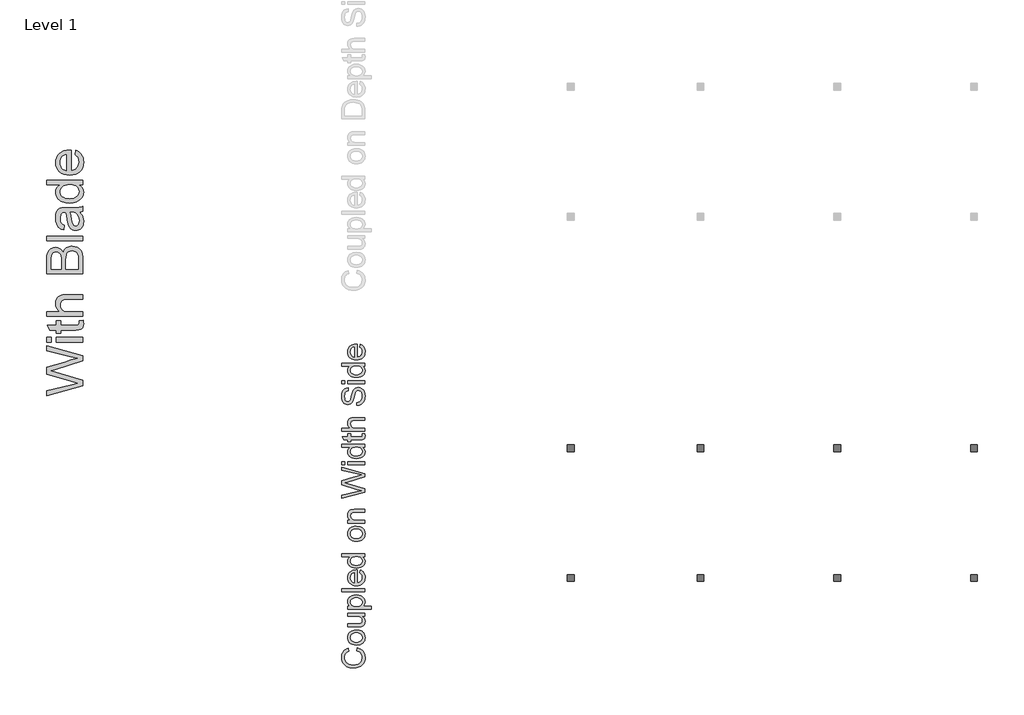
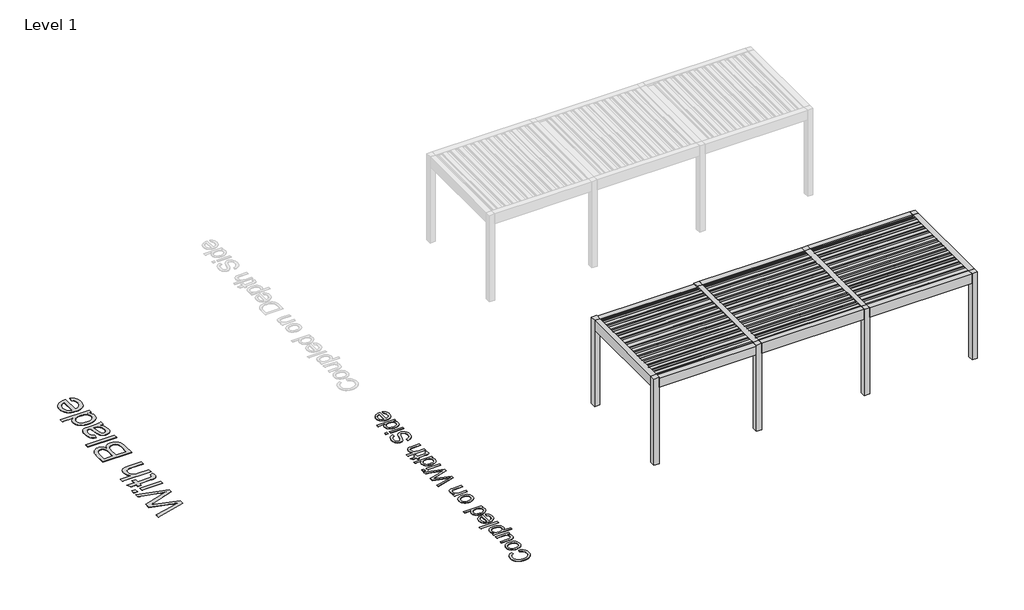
# One storey, part 41 of 80: 3 proxies.
"""IFC4 building model written with IfcOpenShell, lengths in millimetres."""

from ifc_helpers import new_model, si_unit, origin, origin_with_axes, place, context, project, spatial, polyline, outline, extrude, transform, mapped, element, save
from components import generic_models_ec7fa52f

model = new_model("IFC4")

# Units and contexts
model_context = context("Model", 3, world=origin())
ifc_project = project(units=[si_unit("LENGTHUNIT", "METRE", prefix="MILLI")], contexts=[model_context])

# Site, building, storey
site = spatial("IfcSite", under=ifc_project)
building = spatial("IfcBuilding", under=site)
storey = spatial("IfcBuildingStorey", under=building, Name="Level 1", Elevation=0.0)

# Proxies
placement = place(None, origin())
generic_models_shape = generic_models_ec7fa52f(model_context)
element("IfcBuildingElementProxy", 1, Name="Renson_Amani_Patio_Cover : Renson_Amani_Patio_Cover", ObjectType="Renson_Amani_Patio_Cover : Renson_Amani_Patio_Cover", at=placement, inside=storey, context=model_context, shape_type="MappedRepresentation", body=[
    mapped(generic_models_shape, transform((16953.165057, 47104.0136657, 0.0), x_axis=(1.0, 0.0, 0.0), y_axis=(0.0, 1.0, 0.0), z_axis=(0.0, 0.0, 1.0))),
])
element("IfcBuildingElementProxy", 2, Name="500mm Arial", ObjectType="500mm Arial", at=placement, inside=storey, context=model_context, shape_type="SweptSolid", body=[
    extrude(outline(polyline([(10834.4472638, 44082.6564057), (10850.6340716, 44145.4415995), (10889.6793805, 44133.017918), (10923.7966034, 44116.4708924), (10952.9857405, 44095.8005228), (10977.2467916, 44071.0068092), (10996.3191738, 44042.6492387), (11009.942304, 44011.2872986), (11018.116182, 43976.9209889), (11020.8408081, 43939.5503096), (11018.779136, 43901.2637573), (11012.59412, 43866.7250029), (11002.2857599, 43835.9340464), (10987.8540558, 43808.8908876), (10969.5136055, 43785.2238126), (10947.4790069, 43764.5611072), (10921.7502598, 43746.9027714), (10892.3273644, 43732.2488053), (10860.4825792, 43720.7409966), (10827.4881628, 43712.5211333), (10793.3441151, 43707.5892153), (10758.0504362, 43705.9452426), (10720.1815833, 43707.8038131), (10684.8112623, 43713.3795246), (10651.9394732, 43722.6723771), (10621.566216, 43735.6823706), (10594.1934963, 43752.1182651), (10570.3233197, 43771.6888208), (10549.9556863, 43794.3940377), (10533.0905961, 43820.2339158), (10519.8660048, 43848.3309032), (10510.4198682, 43877.807448), (10504.7521862, 43908.6635504), (10502.8629589, 43940.8992102), (10505.3078413, 43976.8098579), (10512.6424886, 44009.7391286), (10524.8669007, 44039.6870222), (10541.9810777, 44066.6535389), (10563.5328312, 44090.1941545), (10589.0699731, 44109.8643449), (10618.5925032, 44125.6641102), (10652.1004216, 44137.5934503), (10667.060956, 44074.8082565), (10642.3707092, 44064.9214278), (10621.2749761, 44053.0419051), (10603.7737566, 44039.1696882), (10589.8670507, 44023.3047771), (10579.2712828, 44005.3552014), (10571.7028772, 43985.2289906), (10567.1618338, 43962.9261447), (10565.6481527, 43938.4466636), (10567.3266143, 43910.2806983), (10572.3619991, 43884.5212945), (10580.7543071, 43861.168452), (10592.5035383, 43840.2221709), (10607.0808624, 43821.9468663), (10623.9574489, 43806.6069536), (10643.1332979, 43794.2024325), (10664.6084094, 43784.7333033), (10710.563002, 43772.7311532), (10757.9278088, 43768.7304365), (10815.9305368, 43773.4669172), (10866.0851154, 43787.6763592), (10887.7403358, 43798.4675644), (10906.4754928, 43811.8952572), (10922.2905865, 43827.9594377), (10935.1856169, 43846.6601058), (10952.3381149, 43888.3380702), (10958.0556142, 43933.2963156), (10956.1089053, 43960.5923933), (10950.2687787, 43985.7041715), (10940.5352342, 44008.6316505), (10926.908272, 44029.3748301), (10909.4492056, 44047.443201), (10888.2193488, 44062.3462539), (10863.2187015, 44074.0839888), (10834.4472638, 44082.6564057)])), origin_with_axes(), (0.0, 0.0, 1.0), 5.0),
    extrude(outline(polyline([(10828.5611519, 44208.2267934), (10780.790142, 44211.6220376), (10739.6256796, 44221.8077704), (10705.0677647, 44238.7839916), (10677.1163972, 44262.5507013), (10659.2511278, 44286.4783594), (10646.4902211, 44312.889221), (10638.8336771, 44341.783286), (10636.2814958, 44373.1605545), (10639.3893322, 44407.7989437), (10648.7128415, 44439.1187306), (10664.2520237, 44467.1199154), (10686.0068788, 44491.802498), (10713.2416427, 44511.9478693), (10745.2205516, 44526.3374203), (10781.9436053, 44534.9711509), (10823.410804, 44537.8490611), (10886.8397913, 44532.7600268), (10912.8751067, 44526.398734), (10935.1243032, 44517.492924), (10954.3423053, 44506.1537279), (10971.2840376, 44492.4922767), (10985.9495001, 44476.5085705), (10998.3386927, 44458.2026091), (11015.2152792, 44417.4750065), (11020.8408081, 44373.1605545), (11017.7444679, 44338.0163277), (11008.4554476, 44306.4053008), (10992.9737469, 44278.327474), (10971.299366, 44253.7828471), (10943.8001869, 44233.8520736), (10910.8440915, 44219.6158068), (10872.4310798, 44211.0740467), (10828.5611519, 44208.2267934)]), holes=[polyline([(10828.4385246, 44271.0119872), (10858.892256, 44272.8284046), (10885.2609644, 44278.2776566), (10907.5446499, 44287.3597434), (10925.7433123, 44300.0746648), (10939.8799444, 44315.541037), (10949.9775387, 44332.8774761), (10956.0360954, 44352.0839819), (10958.0556142, 44373.1605545), (10956.024599, 44394.1298283), (10949.9315535, 44413.259692), (10939.7764776, 44430.5501458), (10925.5593713, 44446.0011896), (10907.1806, 44458.716111), (10884.5405289, 44467.7981978), (10857.639158, 44473.2474499), (10826.4764873, 44475.0638672), (10796.9884461, 44473.2359535), (10771.3095164, 44467.7522126), (10749.4396982, 44458.6126442), (10731.3789915, 44445.8172486), (10717.2423594, 44430.3087232), (10707.1447651, 44413.0297658), (10701.0862085, 44393.9803762), (10699.0666896, 44373.1605545), (10701.0785443, 44352.0839819), (10707.1141083, 44332.8774761), (10717.1733816, 44315.541037), (10731.2563642, 44300.0746648), (10749.4013772, 44287.3597434), (10771.6467416, 44278.2776566), (10797.9924574, 44272.8284046), (10828.4385246, 44271.0119872)])]), origin_with_axes(), (0.0, 0.0, 1.0), 5.0),
    extrude(outline(polyline([(11012.9926588, 44843.926881), (10949.5943283, 44843.926881), (10980.7646632, 44821.2101678), (11003.0291881, 44794.753321), (11016.3879031, 44764.5563406), (11020.8408081, 44730.6192265), (11017.7138111, 44700.0390357), (11008.3328202, 44671.5741663), (10994.2306771, 44647.6924934), (10976.9402233, 44630.8618922), (10955.9402927, 44619.5341924), (10930.7097192, 44612.1612241), (10872.3391093, 44608.4824041), (10644.129645, 44608.4824041), (10644.129645, 44671.267598), (10842.7859224, 44671.267598), (10906.7973896, 44675.0690453), (10928.1498737, 44684.2201099), (10944.3826667, 44699.9010799), (10954.6373773, 44721.0696231), (10958.0556142, 44746.683407), (10954.5607353, 44773.7687189), (10944.0760984, 44799.1065913), (10927.5673939, 44819.9992229), (10906.0003119, 44833.7488125), (10876.4624534, 44841.3823639), (10836.0414192, 44843.926881), (10644.129645, 44843.926881), (10644.129645, 44906.7120749), (11012.9926588, 44906.7120749), (11012.9926588, 44843.926881)])), origin_with_axes(), (0.0, 0.0, 1.0), 5.0),
    extrude(outline(polyline([(11154.259345, 44993.0417164), (10644.129645, 44993.0417164), (10644.129645, 45055.8269103), (10705.6885655, 45055.8269103), (10675.3229725, 45076.3056747), (10653.6332632, 45099.2369857), (10640.6194376, 45125.969744), (10636.2814958, 45157.8528503), (10637.799009, 45179.7494932), (10642.3515487, 45200.3125639), (10649.9391148, 45219.5420623), (10660.5617075, 45237.4379885), (10673.943415, 45253.6094679), (10689.8083261, 45267.6656258), (10728.9877586, 45289.4319772), (10775.2489195, 45302.5837585), (10825.7407233, 45306.9676856), (10879.4361662, 45302.0166071), (10927.460095, 45287.1633716), (10948.735937, 45276.1422401), (10967.3752914, 45262.8831599), (10983.3781582, 45247.3861308), (10996.7445374, 45229.651153), (11014.8167404, 45190.9469014), (11020.8408081, 45150.2499557), (11016.8094345, 45121.3865475), (11004.7153139, 45095.6194794), (10986.4591699, 45073.5618881), (10963.9417261, 45055.8269103), (11154.259345, 45055.8269103), (11154.259345, 44993.0417164)]), holes=[polyline([(10831.5042079, 45055.8269103), (10861.762502, 45057.5245324), (10887.7901531, 45062.6173988), (10909.5871614, 45071.1055094), (10927.1535266, 45082.9888642), (10940.6731899, 45097.2941089), (10950.3300923, 45113.0478889), (10956.1242337, 45130.2502043), (10958.0556142, 45148.901055), (10956.0552559, 45167.8201531), (10950.0541808, 45185.336701), (10940.0523891, 45201.4506988), (10926.0498806, 45216.1621465), (10907.8473861, 45228.4210476), (10885.245636, 45237.1774055), (10858.2446304, 45242.4312202), (10826.8443693, 45244.1824918), (10796.8466583, 45242.4733734), (10770.8649923, 45237.346018), (10748.8993715, 45228.8004259), (10730.9497959, 45216.8365968), (10717.0009369, 45202.4968632), (10707.0374662, 45186.8235574), (10701.0593838, 45169.8166793), (10699.0666896, 45151.476229), (10701.1858432, 45133.1932603), (10707.5433039, 45115.9909449), (10718.1390718, 45099.8692829), (10732.9731468, 45084.8282742), (10751.8462596, 45072.1401775), (10774.5591407, 45063.0772512), (10801.1117901, 45057.6394955), (10831.5042079, 45055.8269103)])]), origin_with_axes(), (0.0, 0.0, 1.0), 5.0),
    extrude(outline(polyline([(11012.9926588, 45377.6010287), (10510.7111081, 45377.6010287), (10510.7111081, 45440.3862226), (11012.9926588, 45440.3862226), (11012.9926588, 45377.6010287)])), origin_with_axes(), (0.0, 0.0, 1.0), 5.0),
    extrude(outline(polyline([(10903.1185696, 45792.8171739), (10910.9667188, 45854.3760945), (10935.6224767, 45844.937622), (10957.3505071, 45832.1958758), (10976.1508099, 45816.1508559), (10992.0233851, 45796.8025622), (11004.6310077, 45774.3502642), (11013.6364523, 45748.9932313), (11019.0397191, 45720.7314634), (11020.8408081, 45689.5649606), (11017.7329716, 45650.6077902), (11008.4094623, 45615.8965911), (10992.8702801, 45585.4313634), (10971.115425, 45559.212107), (10943.7503696, 45538.1278701), (10911.3805861, 45523.067701), (10874.0060746, 45514.0315995), (10831.6268352, 45511.0195656), (10787.8105567, 45514.0622563), (10749.1906115, 45523.1903283), (10715.7669994, 45538.4037816), (10687.5397204, 45559.7026163), (10665.1142471, 45585.8528948), (10649.0960519, 45615.6206796), (10639.4851348, 45649.0059706), (10636.2814958, 45686.008768), (10639.4774706, 45721.819781), (10649.0653951, 45754.2048929), (10665.0452693, 45783.1641037), (10687.4170931, 45808.6974134), (10715.5830584, 45829.5402277), (10748.9453568, 45844.4279522), (10787.5039884, 45853.3605869), (10831.2589532, 45856.3381318), (10848.181525, 45855.9702498), (10848.181525, 45573.8047595), (10873.2358217, 45577.4414263), (10895.1784499, 45584.6726067), (10914.0094095, 45595.4983009), (10929.7287006, 45609.9185087), (10942.1217253, 45627.1361525), (10950.9738858, 45646.3541546), (10956.2851821, 45667.5725151), (10958.0556142, 45690.7912339), (10954.7753331, 45724.2071818), (10944.9344897, 45752.3501545), (10927.9199474, 45775.2201518), (10903.1185696, 45792.8171739)]), holes=[polyline([(10785.3963312, 45573.8047595), (10785.3963312, 45793.5529379), (10752.2256379, 45785.0609952), (10728.4972492, 45768.4143349), (10715.6213794, 45751.2924937), (10706.4243295, 45731.8100764), (10700.9060996, 45709.9670829), (10699.0666896, 45685.7635133), (10704.9374731, 45643.4417555), (10712.2759525, 45625.0284952), (10722.5498236, 45608.4469807), (10735.2839056, 45594.5326106), (10750.0030175, 45584.1207838), (10766.7071594, 45577.2115), (10785.3963312, 45573.8047595)])]), origin_with_axes(), (0.0, 0.0, 1.0), 5.0),
    extrude(outline(polyline([(11012.9926588, 46146.7196533), (10953.7636576, 46146.7196533), (10983.1099109, 46127.9346789), (11004.0715205, 46105.1796447), (11016.6484862, 46078.4545506), (11020.8408081, 46047.7593966), (11014.7707551, 46007.1697498), (10996.5605964, 45970.0136683), (10967.4825903, 45938.5597577), (10928.8089956, 45915.0766237), (10882.1033106, 45900.4533144), (10828.9290339, 45895.5788779), (10776.4138791, 45900.0701039), (10728.9877586, 45913.543782), (10707.8575365, 45923.6452085), (10689.3484736, 45935.9845837), (10673.4605699, 45950.5619078), (10660.1938255, 45967.3771806), (10642.2595782, 46005.3456682), (10636.2814958, 46047.5141419), (10640.558124, 46078.2322885), (10653.3880085, 46105.3942425), (10673.0543669, 46128.417524), (10697.8404163, 46146.7196533), (10510.7111081, 46146.7196533), (10510.7111081, 46209.5048471), (11012.9926588, 46209.5048471), (11012.9926588, 46146.7196533)]), holes=[polyline([(10828.6837793, 45958.3640718), (10859.1298465, 45960.1345039), (10885.4755623, 45965.4458002), (10907.7209267, 45974.2979607), (10925.8659396, 45986.6909854), (10939.9489223, 46001.4905715), (10950.0081956, 46017.5624162), (10956.0437596, 46034.9065194), (10958.0556142, 46053.5228812), (10956.1357301, 46072.2273814), (10950.3760776, 46089.4680178), (10940.7766568, 46105.2447904), (10927.3374676, 46119.5576993), (10909.9512112, 46131.4410542), (10888.5105887, 46139.9291648), (10863.0156, 46145.0220312), (10833.4662452, 46146.7196533), (10801.069637, 46144.9913743), (10773.2868821, 46139.8065375), (10750.1179807, 46131.1651427), (10731.5629325, 46119.06719), (10717.3458263, 46104.4400486), (10707.1907503, 46088.2110876), (10701.0977048, 46070.3803072), (10699.0666896, 46050.9477072), (10701.0172306, 46031.9634634), (10706.8688536, 46014.6193602), (10716.6215586, 45998.9153975), (10730.2753455, 45984.8515754), (10748.1291186, 45973.2632926), (10770.4817819, 45964.9859477), (10797.3333355, 45960.0195407), (10828.6837793, 45958.3640718)])]), origin_with_axes(), (0.0, 0.0, 1.0), 5.0),
    extrude(outline(polyline([(10828.5611519, 46484.1900702), (10780.790142, 46487.5853144), (10739.6256796, 46497.7710472), (10705.0677647, 46514.7472684), (10677.1163972, 46538.5139782), (10659.2511278, 46562.4416363), (10646.4902211, 46588.8524978), (10638.8336771, 46617.7465629), (10636.2814958, 46649.1238314), (10639.3893322, 46683.7622205), (10648.7128415, 46715.0820074), (10664.2520237, 46743.0831922), (10686.0068788, 46767.7657748), (10713.2416427, 46787.9111462), (10745.2205516, 46802.3006971), (10781.9436053, 46810.9344277), (10823.410804, 46813.8123379), (10886.8397913, 46808.7233036), (10912.8751067, 46802.3620108), (10935.1243032, 46793.4562008), (10954.3423053, 46782.1170047), (10971.2840376, 46768.4555536), (10985.9495001, 46752.4718473), (10998.3386927, 46734.1658859), (11015.2152792, 46693.4382834), (11020.8408081, 46649.1238314), (11017.7444679, 46613.9796045), (11008.4554476, 46582.3685777), (10992.9737469, 46554.2907508), (10971.299366, 46529.7461239), (10943.8001869, 46509.8153504), (10910.8440915, 46495.5790836), (10872.4310798, 46487.0373236), (10828.5611519, 46484.1900702)]), holes=[polyline([(10828.4385246, 46546.975264), (10858.892256, 46548.7916814), (10885.2609644, 46554.2409334), (10907.5446499, 46563.3230202), (10925.7433123, 46576.0379417), (10939.8799444, 46591.5043139), (10949.9775387, 46608.8407529), (10956.0360954, 46628.0472587), (10958.0556142, 46649.1238314), (10956.024599, 46670.0931051), (10949.9315535, 46689.2229688), (10939.7764776, 46706.5134226), (10925.5593713, 46721.9644664), (10907.1806, 46734.6793879), (10884.5405289, 46743.7614746), (10857.639158, 46749.2107267), (10826.4764873, 46751.027144), (10796.9884461, 46749.1992304), (10771.3095164, 46743.7154894), (10749.4396982, 46734.5759211), (10731.3789915, 46721.7805254), (10717.2423594, 46706.2720001), (10707.1447651, 46688.9930426), (10701.0862085, 46669.943653), (10699.0666896, 46649.1238314), (10701.0785443, 46628.0472587), (10707.1141083, 46608.8407529), (10717.1733816, 46591.5043139), (10731.2563642, 46576.0379417), (10749.4013772, 46563.3230202), (10771.6467416, 46554.2409334), (10797.9924574, 46548.7916814), (10828.4385246, 46546.975264)])]), origin_with_axes(), (0.0, 0.0, 1.0), 5.0),
    extrude(outline(polyline([(11012.9926588, 46884.445681), (10644.129645, 46884.445681), (10644.129645, 46947.2308748), (10695.6331243, 46947.2308748), (10669.6667868, 46969.0432114), (10651.1194029, 46995.2394752), (10639.9909726, 47025.819666), (10636.2814958, 47060.783784), (10639.270537, 47091.7318568), (10648.2376606, 47120.0740989), (10662.0638923, 47143.7105171), (10679.6302575, 47160.5411183), (10700.8907712, 47171.9607886), (10725.7994479, 47179.3644138), (10786.4999771, 47182.6753517), (11012.9926588, 47182.6753517), (11012.9926588, 47119.8901579), (10794.961263, 47119.8901579), (10762.495677, 47118.0814047), (10739.4110818, 47112.6551453), (10722.8717204, 47102.6456893), (10710.0418358, 47087.0873466), (10701.8104762, 47067.1450768), (10699.0666896, 47043.9838395), (10700.6071955, 47024.9191215), (10705.228713, 47007.2109684), (10712.9312423, 46990.8593802), (10723.7147833, 46975.8643568), (10738.8056093, 46963.3372084), (10759.4299937, 46954.3892453), (10785.5879364, 46949.0204674), (10817.2794374, 46947.2308748), (11012.9926588, 46947.2308748), (11012.9926588, 46884.445681)])), origin_with_axes(), (0.0, 0.0, 1.0), 5.0),
    extrude(outline(polyline([(11012.9926588, 47562.9427074), (10510.7111081, 47425.9679779), (10510.7111081, 47490.715209), (10840.8238851, 47570.17772), (10942.7271978, 47594.7031863), (10852.5961089, 47620.9454353), (10510.7111081, 47720.5188287), (10510.7111081, 47813.8382281), (10758.5409455, 47886.1883538), (10850.5114443, 47917.1824119), (10942.7271978, 47940.0217524), (10843.7669411, 47963.8114548), (10510.7111081, 48044.0097297), (10510.7111081, 48108.7569609), (11012.9926588, 47971.659604), (11012.9926588, 47904.5824536), (10625.4902906, 47784.1624138), (10571.4116373, 47767.3624694), (10636.5267504, 47748.4778603), (11012.9926588, 47638.7263984), (11012.9926588, 47562.9427074)])), origin_with_axes(), (0.0, 0.0, 1.0), 5.0),
    extrude(outline(polyline([(11012.9926588, 48163.6940055), (10644.129645, 48163.6940055), (10644.129645, 48226.4791994), (11012.9926588, 48226.4791994), (11012.9926588, 48163.6940055)])), origin_with_axes(), (0.0, 0.0, 1.0), 5.0),
    extrude(outline(polyline([(10573.4963019, 48163.6940055), (10510.7111081, 48163.6940055), (10510.7111081, 48226.4791994), (10573.4963019, 48226.4791994), (10573.4963019, 48163.6940055)])), origin_with_axes(), (0.0, 0.0, 1.0), 5.0),
    extrude(outline(polyline([(11012.9926588, 48548.2533178), (10953.7636576, 48548.2533178), (10983.1099109, 48529.4683434), (11004.0715205, 48506.7133092), (11016.6484862, 48479.9882151), (11020.8408081, 48449.2930611), (11014.7707551, 48408.7034143), (10996.5605964, 48371.5473328), (10967.4825903, 48340.0934222), (10928.8089956, 48316.6102882), (10882.1033106, 48301.9869789), (10828.9290339, 48297.1125424), (10776.4138791, 48301.6037685), (10728.9877586, 48315.0774465), (10707.8575365, 48325.178873), (10689.3484736, 48337.5182482), (10673.4605699, 48352.0955723), (10660.1938255, 48368.9108452), (10642.2595782, 48406.8793327), (10636.2814958, 48449.0478064), (10640.558124, 48479.765953), (10653.3880085, 48506.927907), (10673.0543669, 48529.9511885), (10697.8404163, 48548.2533178), (10510.7111081, 48548.2533178), (10510.7111081, 48611.0385116), (11012.9926588, 48611.0385116), (11012.9926588, 48548.2533178)]), holes=[polyline([(10828.6837793, 48359.8977363), (10859.1298465, 48361.6681684), (10885.4755623, 48366.9794647), (10907.7209267, 48375.8316252), (10925.8659396, 48388.2246499), (10939.9489223, 48403.024236), (10950.0081956, 48419.0960807), (10956.0437596, 48436.4401839), (10958.0556142, 48455.0565457), (10956.1357301, 48473.7610459), (10950.3760776, 48491.0016823), (10940.7766568, 48506.778455), (10927.3374676, 48521.0913638), (10909.9512112, 48532.9747187), (10888.5105887, 48541.4628293), (10863.0156, 48546.5556957), (10833.4662452, 48548.2533178), (10801.069637, 48546.5250388), (10773.2868821, 48541.340202), (10750.1179807, 48532.6988072), (10731.5629325, 48520.6008545), (10717.3458263, 48505.9737131), (10707.1907503, 48489.7447522), (10701.0977048, 48471.9139717), (10699.0666896, 48452.4813717), (10701.0172306, 48433.4971279), (10706.8688536, 48416.1530247), (10716.6215586, 48400.449062), (10730.2753455, 48386.3852399), (10748.1291186, 48374.7969571), (10770.4817819, 48366.5196122), (10797.3333355, 48361.5532053), (10828.6837793, 48359.8977363)])]), origin_with_axes(), (0.0, 0.0, 1.0), 5.0),
    extrude(outline(polyline([(10960.6307882, 48838.6348393), (11014.8320688, 48846.4829886), (11020.8408081, 48799.5167205), (11018.2349773, 48769.3810537), (11010.4174849, 48746.9095952), (10998.3693495, 48731.0293557), (10983.0715899, 48720.6673462), (10956.7986841, 48714.9651753), (10911.8251102, 48713.0644516), (10706.9148388, 48713.0644516), (10706.9148388, 48665.9755563), (10644.129645, 48665.9755563), (10644.129645, 48713.0644516), (10554.4890655, 48713.0644516), (10517.5782387, 48775.8496455), (10644.129645, 48775.8496455), (10644.129645, 48838.6348393), (10706.9148388, 48838.6348393), (10706.9148388, 48775.8496455), (10909.9857002, 48775.8496455), (10942.3593158, 48779.1605834), (10953.8249713, 48789.890475), (10958.0556142, 48811.2889444), (10960.6307882, 48838.6348393)])), origin_with_axes(), (0.0, 0.0, 1.0), 5.0),
    extrude(outline(polyline([(11012.9926588, 48901.4200332), (10510.7111081, 48901.4200332), (10510.7111081, 48964.205227), (10695.3878697, 48964.205227), (10669.5288311, 48987.2668296), (10651.0580892, 49013.1641892), (10639.9756441, 49041.8973059), (10636.2814958, 49073.4661796), (10640.3128693, 49111.3886819), (10652.4069899, 49143.9768953), (10671.6134957, 49169.6366645), (10696.982025, 49186.7738341), (10731.838844, 49196.4307365), (10779.5102192, 49199.6497039), (11012.9926588, 49199.6497039), (11012.9926588, 49136.8645101), (10786.0094678, 49136.8645101), (10746.707408, 49131.8674463), (10731.7008883, 49125.6211166), (10719.7907087, 49116.876255), (10710.7239503, 49105.8397952), (10704.2476944, 49092.7186707), (10699.0666896, 49060.2224278), (10702.5615686, 49033.6889389), (10713.0462054, 49008.7802621), (10729.5089247, 48988.1482135), (10750.9380509, 48974.4446092), (10779.4182487, 48966.7650726), (10817.0341827, 48964.205227), (11012.9926588, 48964.205227), (11012.9926588, 48901.4200332)])), origin_with_axes(), (0.0, 0.0, 1.0), 5.0),
    extrude(outline(polyline([(10840.3333758, 49466.4867778), (10840.3333758, 49529.2719716), (10875.1748664, 49536.4763273), (10903.1798833, 49549.5054813), (10925.4060871, 49569.8309616), (10942.9111388, 49598.924296), (10954.2694954, 49634.4862222), (10958.0556142, 49674.2174777), (10955.1892003, 49709.1969241), (10946.5899587, 49739.8231002), (10932.9783249, 49764.6398064), (10915.0747345, 49782.1908433), (10894.519328, 49792.6294949), (10872.952246, 49796.1090454), (10851.936987, 49793.5032146), (10833.7728135, 49785.6857222), (10818.2757845, 49769.8054828), (10805.2619589, 49743.0114108), (10781.2883155, 49651.592735), (10765.4234045, 49591.5819845), (10750.3249143, 49553.1843013), (10729.2023564, 49521.9296601), (10703.6039009, 49499.7800983), (10674.0813708, 49486.5823318), (10641.186589, 49482.1830762), (10604.4137179, 49487.6246641), (10570.1240503, 49503.9494276), (10554.5963644, 49516.0857013), (10541.0613727, 49530.7281712), (10519.9694716, 49567.5316991), (10507.139587, 49611.7081954), (10502.8629589, 49660.6058439), (10507.3388565, 49713.5808512), (10520.7665493, 49759.9339826), (10542.8701258, 49798.0097691), (10557.0719037, 49813.3228571), (10573.3736746, 49826.1527417), (10610.3764719, 49843.9643617), (10651.9777942, 49851.0460901), (10651.9777942, 49788.2608962), (10631.9435539, 49784.0609101), (10614.5151444, 49776.733927), (10599.6925657, 49766.279947), (10587.4758177, 49752.69897), (10577.9262143, 49735.7380772), (10571.105069, 49715.1443497), (10565.6481527, 49663.0583905), (10571.0437553, 49609.7461581), (10577.7882585, 49589.3670284), (10587.2305631, 49573.1725564), (10598.5812555, 49560.8331811), (10611.0509223, 49552.0193416), (10624.6395635, 49546.731038), (10639.3471791, 49544.9682701), (10663.4741066, 49549.9653338), (10682.8798818, 49564.9565251), (10691.5097803, 49578.7214431), (10700.2316493, 49600.395824), (10717.9512987, 49667.4729745), (10734.7819, 49736.6961032), (10749.466523, 49778.573337), (10772.2445498, 49814.3651895), (10800.3568656, 49839.3351799), (10833.496902, 49854.0044744), (10871.3580907, 49858.8942393), (10910.0623423, 49853.2687104), (10946.4673314, 49836.3921239), (10977.7986146, 49808.9542584), (11001.2817487, 49771.6448928), (11015.9510432, 49726.7786178), (11020.8408081, 49676.6700243), (11015.5678328, 49615.1570891), (11008.9766137, 49588.4818123), (10999.748907, 49564.5273295), (10987.8693842, 49543.1480206), (10973.322717, 49524.1982658), (10956.1089053, 49507.6780649), (10936.2279492, 49493.5874181), (10914.323642, 49482.2367257), (10891.0397774, 49473.9363882), (10866.3763553, 49468.6864055), (10840.3333758, 49466.4867778)])), origin_with_axes(), (0.0, 0.0, 1.0), 5.0),
    extrude(outline(polyline([(11012.9926588, 49945.2238808), (10644.129645, 49945.2238808), (10644.129645, 50008.0090747), (11012.9926588, 50008.0090747), (11012.9926588, 49945.2238808)])), origin_with_axes(), (0.0, 0.0, 1.0), 5.0),
    extrude(outline(polyline([(10573.4963019, 49945.2238808), (10510.7111081, 49945.2238808), (10510.7111081, 50008.0090747), (10573.4963019, 50008.0090747), (10573.4963019, 49945.2238808)])), origin_with_axes(), (0.0, 0.0, 1.0), 5.0),
    extrude(outline(polyline([(11012.9926588, 50329.7831931), (10953.7636576, 50329.7831931), (10983.1099109, 50310.9982187), (11004.0715205, 50288.2431845), (11016.6484862, 50261.5180904), (11020.8408081, 50230.8229364), (11014.7707551, 50190.2332896), (10996.5605964, 50153.0772081), (10967.4825903, 50121.6232975), (10928.8089956, 50098.1401635), (10882.1033106, 50083.5168542), (10828.9290339, 50078.6424177), (10776.4138791, 50083.1336438), (10728.9877586, 50096.6073218), (10707.8575365, 50106.7087483), (10689.3484736, 50119.0481235), (10673.4605699, 50133.6254476), (10660.1938255, 50150.4407205), (10642.2595782, 50188.4092081), (10636.2814958, 50230.5776817), (10640.558124, 50261.2958283), (10653.3880085, 50288.4577823), (10673.0543669, 50311.4810639), (10697.8404163, 50329.7831931), (10510.7111081, 50329.7831931), (10510.7111081, 50392.568387), (11012.9926588, 50392.568387), (11012.9926588, 50329.7831931)]), holes=[polyline([(10828.6837793, 50141.4276116), (10859.1298465, 50143.1980437), (10885.4755623, 50148.50934), (10907.7209267, 50157.3615005), (10925.8659396, 50169.7545252), (10939.9489223, 50184.5541113), (10950.0081956, 50200.625956), (10956.0437596, 50217.9700592), (10958.0556142, 50236.586421), (10956.1357301, 50255.2909212), (10950.3760776, 50272.5315576), (10940.7766568, 50288.3083303), (10927.3374676, 50302.6212391), (10909.9512112, 50314.504594), (10888.5105887, 50322.9927046), (10863.0156, 50328.085571), (10833.4662452, 50329.7831931), (10801.069637, 50328.0549142), (10773.2868821, 50322.8700773), (10750.1179807, 50314.2286825), (10731.5629325, 50302.1307298), (10717.3458263, 50287.5035884), (10707.1907503, 50271.2746275), (10701.0977048, 50253.443847), (10699.0666896, 50234.011247), (10701.0172306, 50215.0270032), (10706.8688536, 50197.6829), (10716.6215586, 50181.9789373), (10730.2753455, 50167.9151152), (10748.1291186, 50156.3268324), (10770.4817819, 50148.0494875), (10797.3333355, 50143.0830806), (10828.6837793, 50141.4276116)])]), origin_with_axes(), (0.0, 0.0, 1.0), 5.0),
    extrude(outline(polyline([(10903.1185696, 50744.9993383), (10910.9667188, 50806.5582589), (10935.6224767, 50797.1197864), (10957.3505071, 50784.3780402), (10976.1508099, 50768.3330203), (10992.0233851, 50748.9847266), (11004.6310077, 50726.5324286), (11013.6364523, 50701.1753957), (11019.0397191, 50672.9136278), (11020.8408081, 50641.747125), (11017.7329716, 50602.7899546), (11008.4094623, 50568.0787555), (10992.8702801, 50537.6135278), (10971.115425, 50511.3942714), (10943.7503696, 50490.3100346), (10911.3805861, 50475.2498654), (10874.0060746, 50466.2137639), (10831.6268352, 50463.20173), (10787.8105567, 50466.2444207), (10749.1906115, 50475.3724927), (10715.7669994, 50490.585946), (10687.5397204, 50511.8847807), (10665.1142471, 50538.0350592), (10649.0960519, 50567.802844), (10639.4851348, 50601.1881351), (10636.2814958, 50638.1909324), (10639.4774706, 50674.0019454), (10649.0653951, 50706.3870573), (10665.0452693, 50735.3462681), (10687.4170931, 50760.8795778), (10715.5830584, 50781.7223921), (10748.9453568, 50796.6101166), (10787.5039884, 50805.5427513), (10831.2589532, 50808.5202962), (10848.181525, 50808.1524142), (10848.181525, 50525.9869239), (10873.2358217, 50529.6235907), (10895.1784499, 50536.8547711), (10914.0094095, 50547.6804653), (10929.7287006, 50562.1006731), (10942.1217253, 50579.3183169), (10950.9738858, 50598.536319), (10956.2851821, 50619.7546795), (10958.0556142, 50642.9733983), (10954.7753331, 50676.3893462), (10944.9344897, 50704.5323189), (10927.9199474, 50727.4023162), (10903.1185696, 50744.9993383)]), holes=[polyline([(10785.3963312, 50525.9869239), (10785.3963312, 50745.7351023), (10752.2256379, 50737.2431596), (10728.4972492, 50720.5964993), (10715.6213794, 50703.4746581), (10706.4243295, 50683.9922408), (10700.9060996, 50662.1492473), (10699.0666896, 50637.9456777), (10704.9374731, 50595.6239199), (10712.2759525, 50577.2106596), (10722.5498236, 50560.6291451), (10735.2839056, 50546.714775), (10750.0030175, 50536.3029482), (10766.7071594, 50529.3936644), (10785.3963312, 50525.9869239)])]), origin_with_axes(), (0.0, 0.0, 1.0), 5.0),
])
element("IfcBuildingElementProxy", 3, Name="800mm Arial", ObjectType="800mm Arial", at=placement, inside=storey, context=model_context, shape_type="SweptSolid", body=[
    extrude(outline(polyline([(4831.971127, 49900.4211976), (4032.5824286, 49682.4238402), (4032.5824286, 49785.4700396), (4557.9619149, 49911.9358298), (4720.142581, 49950.9684811), (4576.6975875, 49992.7334179), (4032.5824286, 50151.2059822), (4032.5824286, 50299.7252203), (4427.0073699, 50414.8715416), (4573.3798122, 50464.1990547), (4720.142581, 50500.5482112), (4562.6458331, 50538.4098829), (4032.5824286, 50666.0466526), (4032.5824286, 50769.092852), (4831.971127, 50550.9003313), (4831.971127, 50444.1460301), (4215.2552366, 50252.4957122), (4129.1882405, 50225.7583461), (4232.8199297, 50195.7032046), (4831.971127, 50021.0320901), (4831.971127, 49900.4211976)])), origin_with_axes(), (0.0, 0.0, 1.0), 5.0),
    extrude(outline(polyline([(4831.971127, 50856.5259909), (4244.9200516, 50856.5259909), (4244.9200516, 50956.4495782), (4831.971127, 50956.4495782), (4831.971127, 50856.5259909)])), origin_with_axes(), (0.0, 0.0, 1.0), 5.0),
    extrude(outline(polyline([(4132.5060159, 50856.5259909), (4032.5824286, 50856.5259909), (4032.5824286, 50956.4495782), (4132.5060159, 50956.4495782), (4132.5060159, 50856.5259909)])), origin_with_axes(), (0.0, 0.0, 1.0), 5.0),
    extrude(outline(polyline([(4748.6364165, 51318.6725821), (4834.8985758, 51331.1630305), (4842.0708255, 51291.5936803), (4844.4615754, 51256.4155033), (4840.3143562, 51208.4541331), (4827.8726986, 51172.6904663), (4808.6979086, 51147.4168246), (4784.3512924, 51130.9255294), (4742.5375647, 51121.850438), (4670.9614404, 51118.8254075), (4344.8436389, 51118.8254075), (4344.8436389, 51043.8827171), (4244.9200516, 51043.8827171), (4244.9200516, 51118.8254075), (4102.2557112, 51118.8254075), (4043.511571, 51218.7489948), (4244.9200516, 51218.7489948), (4244.9200516, 51318.6725821), (4344.8436389, 51318.6725821), (4344.8436389, 51218.7489948), (4668.0339916, 51218.7489948), (4700.9190003, 51220.0663468), (4719.5570913, 51224.0184028), (4729.8763484, 51230.922303), (4737.8048557, 51241.0951877), (4742.854705, 51255.5128733), (4744.5379881, 51275.1511759), (4748.6364165, 51318.6725821)])), origin_with_axes(), (0.0, 0.0, 1.0), 5.0),
    extrude(outline(polyline([(4831.971127, 51418.5961694), (4032.5824286, 51418.5961694), (4032.5824286, 51518.5197567), (4326.4982928, 51518.5197567), (4285.3432411, 51555.2226466), (4255.9467756, 51596.4386868), (4238.3088963, 51642.1678774), (4232.4296032, 51692.4102182), (4234.0336012, 51723.6485369), (4238.8455953, 51752.7644552), (4246.8655853, 51779.7579731), (4258.0935714, 51804.6290906), (4272.1514247, 51826.7435271), (4288.6610165, 51845.467002), (4307.6223466, 51860.7995154), (4329.0354151, 51872.7410671), (4354.2236729, 51881.7063792), (4384.5105708, 51888.1101736), (4460.3802867, 51893.2332091), (4831.971127, 51893.2332091), (4831.971127, 51793.3096218), (4470.7239393, 51793.3096218), (4436.9850913, 51791.3213961), (4408.1741156, 51785.3567191), (4384.2910121, 51775.4155907), (4365.3357808, 51761.498011), (4350.9058976, 51743.9333179), (4340.5988381, 51723.0508495), (4334.4146024, 51698.8506057), (4332.3531905, 51671.3325865), (4337.9153433, 51629.1041369), (4354.6018017, 51589.4616004), (4366.7141213, 51571.665151), (4380.8024689, 51556.6253825), (4396.8668444, 51544.3422951), (4414.907248, 51534.8158886), (4460.2339143, 51522.5937897), (4520.1002432, 51518.5197567), (4831.971127, 51518.5197567), (4831.971127, 51418.5961694)])), origin_with_axes(), (0.0, 0.0, 1.0), 5.0),
    extrude(outline(polyline([(4831.971127, 52355.3798003), (4032.5824286, 52355.3798003), (4032.5824286, 52660.4199701), (4034.0522519, 52704.6671396), (4038.4617217, 52744.3157749), (4045.8108381, 52779.365876), (4056.099601, 52809.8174429), (4069.4377898, 52836.4450297), (4085.9351838, 52860.0231906), (4105.5917831, 52880.5519256), (4128.4075875, 52898.0312348), (4153.0957395, 52911.9915065), (4178.3693812, 52921.9631291), (4204.2285126, 52927.9461027), (4230.6731339, 52929.9404272), (4255.0990352, 52928.263243), (4278.805272, 52923.2316903), (4301.7918443, 52914.8457691), (4324.0587521, 52903.1054795), (4344.9107263, 52887.9742282), (4363.6524977, 52869.4154223), (4380.2840665, 52847.4290617), (4394.8054326, 52822.0151464), (4407.6618121, 52852.1739684), (4424.3726659, 52878.6368862), (4444.937994, 52901.4038998), (4469.3577965, 52920.4750093), (4496.8880134, 52935.545272), (4526.7845847, 52946.3097454), (4559.0475105, 52952.7684294), (4593.6767909, 52954.921324), (4649.420296, 52949.0420309), (4701.1141635, 52931.4041516), (4745.074687, 52905.0815074), (4777.61816, 52873.1479196), (4801.1841233, 52834.0420821), (4818.2121174, 52786.2026889), (4828.5313746, 52728.0684339), (4831.971127, 52658.078011), (4831.971127, 52355.3798003)]), holes=[polyline([(4732.0475397, 52455.3033876), (4732.0475397, 52660.2248068), (4728.1442745, 52734.3868443), (4719.483905, 52768.8087636), (4706.3835714, 52797.1318312), (4687.6235034, 52820.1610955), (4661.9839306, 52838.7016048), (4630.6114371, 52850.9237038), (4594.6526071, 52854.9977368), (4552.8876703, 52850.216237), (4516.9776311, 52835.8717376), (4501.7122051, 52824.8267171), (4488.8985176, 52810.8176546), (4478.5365684, 52793.8445501), (4470.6263577, 52773.9074037), (4460.5998454, 52721.6280464), (4457.2576746, 52650.466644), (4457.2576746, 52455.3033876), (4732.0475397, 52455.3033876)]), polyline([(4357.3340873, 52455.3033876), (4357.3340873, 52637.7810323), (4355.1872915, 52701.5994172), (4348.746904, 52744.3401704), (4333.938892, 52781.6407477), (4311.7634669, 52808.4513001), (4282.5621647, 52824.625455), (4246.6765209, 52830.0168399), (4211.8398796, 52824.9913861), (4181.4919933, 52809.9150245), (4157.804053, 52785.4708266), (4142.9472501, 52752.3418639), (4135.1163245, 52701.5018356), (4132.5060159, 52623.9244411), (4132.5060159, 52455.3033876), (4357.3340873, 52455.3033876)])]), origin_with_axes(), (0.0, 0.0, 1.0), 5.0),
    extrude(outline(polyline([(4831.971127, 53079.8258082), (4032.5824286, 53079.8258082), (4032.5824286, 53179.7493955), (4831.971127, 53179.7493955), (4831.971127, 53079.8258082)])), origin_with_axes(), (0.0, 0.0, 1.0), 5.0),
    extrude(outline(polyline([(4757.0284365, 53704.3482287), (4797.9639295, 53656.6064171), (4813.125675, 53632.2049112), (4824.7500865, 53607.4496719), (4839.5337031, 53555.7558044), (4844.4615754, 53500.4026258), (4841.4975334, 53455.9115022), (4832.6054075, 53416.8971474), (4817.7851978, 53383.3595616), (4797.0369041, 53355.2987446), (4771.6778784, 53333.1416162), (4743.0254728, 53317.3150958), (4711.0796873, 53307.8191836), (4675.8405218, 53304.6538796), (4634.4171206, 53309.4353794), (4596.799403, 53323.7798787), (4564.5974656, 53345.9065129), (4539.4214056, 53374.0344172), (4520.3929881, 53407.0901938), (4506.6339785, 53444.0004447), (4491.6064077, 53530.4577673), (4475.798184, 53632.625732), (4457.2576746, 53703.762739), (4435.0090634, 53704.3482287), (4410.7844242, 53702.6283525), (4390.4142593, 53697.468724), (4373.8985687, 53688.869343), (4361.2373524, 53676.8302096), (4348.6005316, 53656.0209274), (4339.574231, 53630.6740994), (4334.1584506, 53600.7897258), (4332.3531905, 53566.3678064), (4337.1590857, 53506.8430132), (4343.1664547, 53483.813749), (4351.5767713, 53465.2732396), (4363.0487114, 53450.0383079), (4378.2409512, 53436.9257766), (4397.1534905, 53425.9356457), (4419.7863294, 53417.0679153), (4407.295881, 53317.144328), (4352.6501692, 53334.4894624), (4329.7184865, 53346.3639268), (4309.7142527, 53360.3729893), (4292.2349436, 53377.1204362), (4276.8780349, 53397.2100539), (4263.6435265, 53420.6418424), (4252.5314186, 53447.4158016), (4237.4550571, 53508.8190412), (4232.4296032, 53579.2485814), (4236.8695673, 53646.7994635), (4250.1894595, 53700.347382), (4270.2180887, 53740.7217807), (4294.7842636, 53768.7521034), (4325.1565454, 53787.3414035), (4362.6034952, 53799.3927346), (4397.1473916, 53803.0520457), (4450.0366341, 53804.271816), (4574.3556285, 53804.271816), (4682.6468404, 53805.5403772), (4747.9533451, 53809.3460607), (4790.8648661, 53816.8598461), (4831.971127, 53829.2527129), (4831.971127, 53729.3291256), (4797.2320673, 53713.3257385), (4757.0284365, 53704.3482287)]), holes=[polyline([(4557.1812619, 53704.3482287), (4573.8189295, 53637.2120685), (4587.8218932, 53543.1433789), (4595.482051, 53491.3031389), (4604.0204434, 53457.1739645), (4615.0959582, 53434.8033762), (4630.3674831, 53418.2388948), (4648.6640384, 53407.9928238), (4668.8146446, 53404.5774669), (4684.3423212, 53406.4376167), (4698.5282504, 53412.018066), (4711.3724322, 53421.318815), (4722.8748666, 53434.3398635), (4732.3524823, 53450.9592345), (4739.1222077, 53471.0549511), (4744.5379881, 53521.6754207), (4738.5611133, 53575.3453162), (4731.0900199, 53599.8383049), (4720.6304892, 53622.7699876), (4694.2102633, 53661.2171491), (4662.7645836, 53687.9545152), (4630.3674831, 53699.810683), (4585.4799341, 53703.762739), (4557.1812619, 53704.3482287)])]), origin_with_axes(), (0.0, 0.0, 1.0), 5.0),
    extrude(outline(polyline([(4831.971127, 54303.8897525), (4737.7072741, 54303.8897525), (4784.4122809, 54273.9931812), (4802.7606764, 54256.6754916), (4817.7730001, 54237.7781994), (4829.4492518, 54217.3013046), (4837.7894315, 54195.2448072), (4842.7935394, 54171.6087072), (4844.4615754, 54146.3930046), (4842.0464301, 54113.4104142), (4834.8009942, 54081.7939667), (4822.7252677, 54051.5436619), (4805.8192506, 54022.6595), (4784.5891476, 53996.0441109), (4759.5411634, 53972.6001247), (4730.675298, 53952.3275414), (4697.9915514, 53935.2263611), (4662.1120065, 53921.6503171), (4623.6587461, 53911.9531428), (4582.6317703, 53906.1348382), (4539.0310791, 53904.1954033), (4496.2293374, 53905.9823669), (4455.4524145, 53911.3432576), (4416.7003104, 53920.2780754), (4379.9730251, 53932.7868204), (4346.3439564, 53948.8633936), (4316.8865024, 53968.5016963), (4291.600663, 53991.7017284), (4270.4864382, 54018.46349), (4253.8365729, 54047.8416589), (4241.943812, 54078.8909132), (4234.8081554, 54111.6112529), (4232.4296032, 54146.002678), (4234.1311828, 54171.1543427), (4239.2359218, 54194.8910738), (4247.74382, 54217.2128712), (4259.6548775, 54238.1197351), (4290.9541847, 54274.7616365), (4330.4015579, 54303.8897525), (4032.5824286, 54303.8897525), (4032.5824286, 54403.8133398), (4831.971127, 54403.8133398), (4831.971127, 54303.8897525)]), holes=[polyline([(4538.6407525, 54004.1189906), (4587.0961298, 54006.9366601), (4629.0257357, 54015.3896687), (4664.4295702, 54029.4780163), (4693.3076333, 54049.2017029), (4715.7209135, 54072.7554684), (4731.7303994, 54098.3340527), (4741.3360909, 54125.9374557), (4744.5379881, 54155.5656776), (4741.4824633, 54185.3341731), (4732.3158891, 54212.7729072), (4717.0382655, 54237.8818799), (4695.6495923, 54260.6610912), (4667.9791019, 54279.5736305), (4633.8560263, 54293.0825872), (4593.2803655, 54301.1879612), (4546.2521195, 54303.8897525), (4494.6924267, 54301.1391704), (4450.4757514, 54292.8874239), (4413.6020937, 54279.1345132), (4384.0714534, 54259.8804382), (4361.4447134, 54236.601121), (4345.2827562, 54210.7724838), (4335.5855819, 54182.3945265), (4332.3531905, 54151.4672492), (4335.457506, 54121.2535376), (4344.7704527, 54093.6501345), (4360.2920304, 54068.65704), (4382.0222393, 54046.274254), (4410.4367896, 54027.8313263), (4446.011392, 54014.6578065), (4488.7460463, 54006.7536946), (4538.6407525, 54004.1189906)])]), origin_with_axes(), (0.0, 0.0, 1.0), 5.0),
    extrude(outline(polyline([(4657.1048492, 54964.7125388), (4669.5952976, 55062.6844935), (4708.8353099, 55047.6630216), (4743.4157994, 55027.3843395), (4773.3367661, 55001.8484472), (4798.5982101, 54971.0553446), (4818.6634324, 54935.3221721), (4832.9957341, 54894.96607), (4841.595115, 54849.9870383), (4844.4615754, 54800.3850769), (4839.5154066, 54738.3841498), (4824.6769002, 54683.1407506), (4799.9460563, 54634.654879), (4765.3228749, 54592.9265353), (4721.7709744, 54559.3706529), (4670.2539736, 54535.4021654), (4610.7718723, 54521.021073), (4543.3246707, 54516.2273755), (4473.5903996, 54521.0698638), (4412.1261716, 54535.5973287), (4358.9319865, 54559.8097702), (4335.4361601, 54575.5478572), (4314.0078444, 54593.7071883), (4278.3173639, 54635.3257527), (4252.8241635, 54682.7016332), (4237.5282433, 54735.8348298), (4232.4296032, 54794.7253424), (4237.5160456, 54851.7191122), (4252.7753727, 54903.2605084), (4278.2075845, 54949.3495312), (4313.8126811, 54989.9861805), (4358.6392416, 55023.1578352), (4411.735845, 55046.8518743), (4473.1024915, 55061.0682978), (4542.7391809, 55065.8071056), (4569.6717103, 55065.2216158), (4569.6717103, 54616.1509628), (4609.5460031, 54621.9387731), (4644.4680283, 54633.4473064), (4674.4377859, 54650.6765626), (4699.4552758, 54673.6265418), (4719.1789624, 54701.0286828), (4733.26731, 54731.6144244), (4741.7203186, 54765.3837666), (4744.5379881, 54802.3367094), (4739.317371, 54855.5186968), (4723.6555196, 54900.3086642), (4711.6651771, 54919.5566403), (4696.5766178, 54936.7066115), (4678.3898419, 54951.7585776), (4657.1048492, 54964.7125388)]), holes=[polyline([(4469.748123, 54616.1509628), (4469.748123, 54965.8835183), (4441.4738462, 54960.7482851), (4416.9564622, 54952.3684628), (4396.1959708, 54940.7440513), (4379.192372, 54925.8750507), (4358.7002301, 54898.6253811), (4344.0629859, 54867.6188187), (4335.2806393, 54832.8553636), (4332.3531905, 54794.3350159), (4334.6890507, 54759.1995309), (4341.6966314, 54726.979297), (4353.3759325, 54697.6743143), (4369.7269541, 54671.2845827), (4389.9934385, 54649.139652), (4413.4191281, 54632.5690717), (4440.004023, 54621.572842), (4469.748123, 54616.1509628)])]), origin_with_axes(), (0.0, 0.0, 1.0), 5.0),
])

save(model, "model.ifc")
